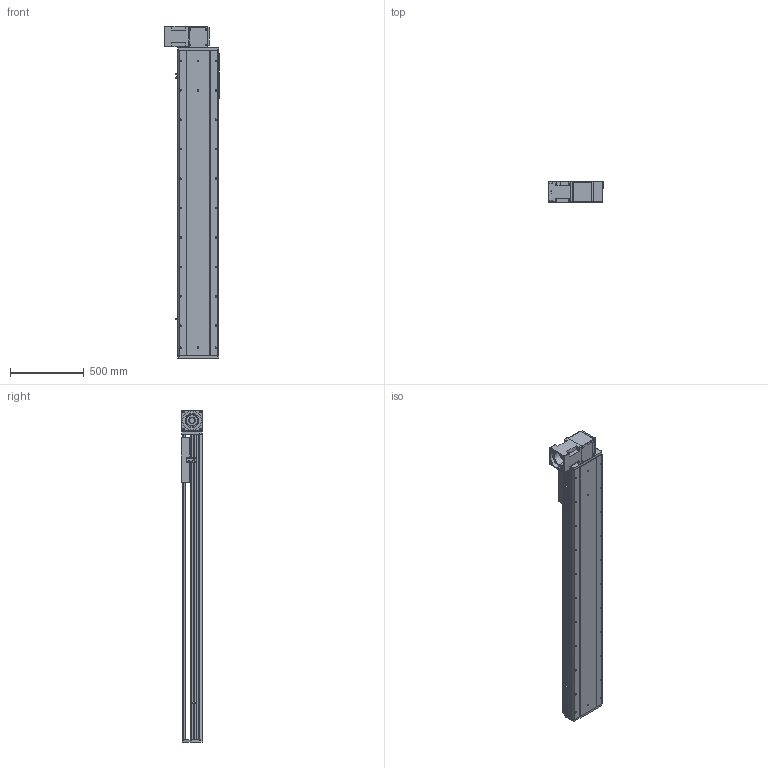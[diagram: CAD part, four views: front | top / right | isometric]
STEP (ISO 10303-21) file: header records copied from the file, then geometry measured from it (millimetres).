
FILE_DESCRIPTION (( 'STEP AP214' ), '1' );
FILE_NAME ('RTB28R-XX-1650-BR-M100-XX-C4.STEP', '2025-12-22T01:14:31', ( '' ), ( '' ), 'SwSTEP 2.0', 'SolidWorks 2018', '' );
FILE_SCHEMA (( 'AUTOMOTIVE_DESIGN' ));
Length unit declared in the file: millimetre
Products named in the file (4): RTB28S-GY-004^RTB28R-XX-XX-BR-M100-XX-C4; RTB28R-XX-1650-BR-M100-XX-C4; RTB28S-GY-011^RTB28R-XX-XX-BR-M100-XX-C4; RTB28S-GY-008^RTB28R-XX-XX-BR-M100-XX-C4
Assembly tree (3 placements, depth 2):
  RTB28R-XX-1650-BR-M100-XX-C4
    RTB28S-GY-011^RTB28R-XX-XX-BR-M100-XX-C4
    RTB28S-GY-004^RTB28R-XX-XX-BR-M100-XX-C4
    RTB28S-GY-008^RTB28R-XX-XX-BR-M100-XX-C4
Bounding box: 370 x 145 x 2257 mm (x, y, z)
Volume: 39852005.3 mm3; surface area: 3784779.7 mm2
Topology: 3 solids, 4 shells, 1018 faces, 2700 edges, 1736 vertices
Faces by surface type: plane 462, cylinder 385, bspline 87, cone 80, torus 4
Entity records: 43660 total; most frequent: CARTESIAN_POINT 11695, ORIENTED_EDGE 5336, DIRECTION 5196, EDGE_CURVE 2668, AXIS2_PLACEMENT_3D 1797, VERTEX_POINT 1736, LINE 1602, VECTOR 1602
